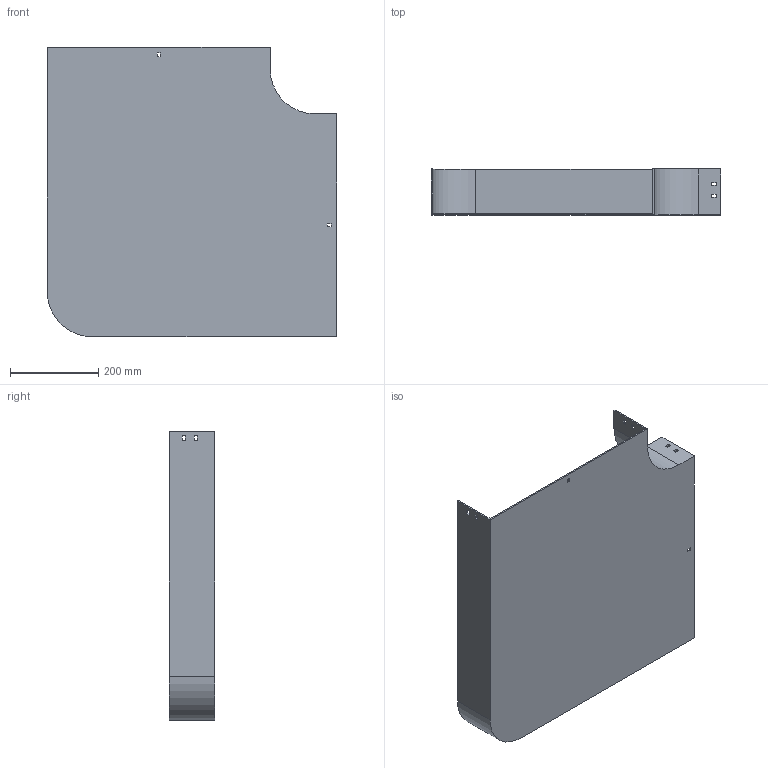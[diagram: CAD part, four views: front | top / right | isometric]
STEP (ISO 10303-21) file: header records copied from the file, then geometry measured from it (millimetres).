
FILE_DESCRIPTION (( 'STEP AP214' ), '1' );
FILE_NAME ('10B1D500.step', '2025-02-21T09:39:47', ( '' ), ( '' ), 'SwSTEP 2.0', 'SolidWorks 2023', '' );
FILE_SCHEMA (( 'AUTOMOTIVE_DESIGN' ));
Length unit declared in the file: millimetre
Products named in the file (1): 10B1D500
Bounding box: 654 x 104 x 654 mm (x, y, z)
Volume: 1951306 mm3; surface area: 1126463.6 mm2
Topology: 1 solids, 1 shells, 58 faces, 168 edges, 112 vertices
Faces by surface type: plane 54, cylinder 4
Entity records: 1943 total; most frequent: CARTESIAN_POINT 339, ORIENTED_EDGE 336, DIRECTION 294, EDGE_CURVE 168, LINE 160, VECTOR 160, VERTEX_POINT 112, EDGE_LOOP 78
